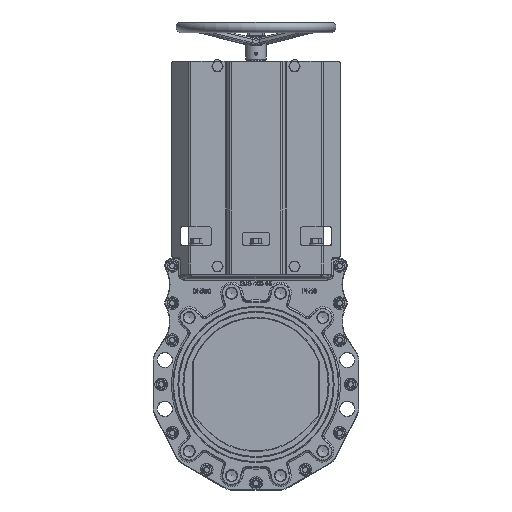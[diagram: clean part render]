
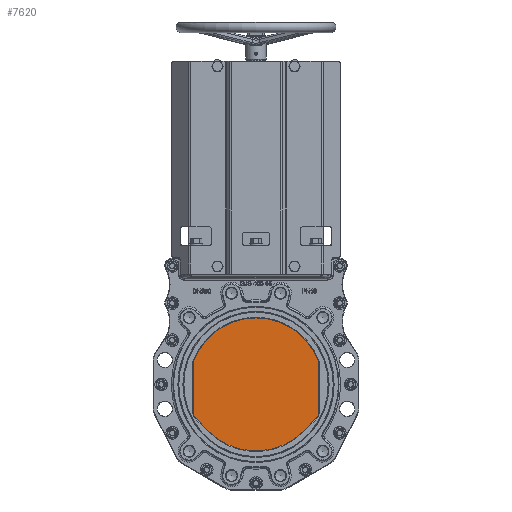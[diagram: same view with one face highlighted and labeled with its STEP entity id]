
A CAD part, top view. The second image highlights one B-rep face of the part: STEP entity #7620.
In plain terms, the highlighted planar face has unit normal (0, 0, 1).
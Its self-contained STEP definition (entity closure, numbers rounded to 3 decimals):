
#5628=PLANE('',#54207);
#7620=ADVANCED_FACE('',(#11492),#5628,.T.);
#11492=FACE_OUTER_BOUND('',#14449,.T.);
#14449=EDGE_LOOP('',(#28850,#28851,#28852,#28853,#28854,#28855,#28856,#28857,
#28858,#28859));
#17993=LINE('',#77340,#21211);
#17997=LINE('',#77352,#21215);
#18001=LINE('',#77364,#21219);
#18005=LINE('',#77376,#21223);
#21211=VECTOR('',#60901,1.);
#21215=VECTOR('',#60913,1.);
#21219=VECTOR('',#60925,1.);
#21223=VECTOR('',#60937,1.);
#28850=ORIENTED_EDGE('',*,*,#45213,.F.);
#28851=ORIENTED_EDGE('',*,*,#45238,.F.);
#28852=ORIENTED_EDGE('',*,*,#45236,.F.);
#28853=ORIENTED_EDGE('',*,*,#45233,.F.);
#28854=ORIENTED_EDGE('',*,*,#45230,.F.);
#28855=ORIENTED_EDGE('',*,*,#45227,.F.);
#28856=ORIENTED_EDGE('',*,*,#45224,.F.);
#28857=ORIENTED_EDGE('',*,*,#45221,.F.);
#28858=ORIENTED_EDGE('',*,*,#45218,.F.);
#28859=ORIENTED_EDGE('',*,*,#45215,.F.);
#39834=VERTEX_POINT('',#77335);
#39835=VERTEX_POINT('',#77337);
#39836=VERTEX_POINT('',#77341);
#39838=VERTEX_POINT('',#77347);
#39840=VERTEX_POINT('',#77353);
#39842=VERTEX_POINT('',#77359);
#39844=VERTEX_POINT('',#77365);
#39846=VERTEX_POINT('',#77371);
#39848=VERTEX_POINT('',#77377);
#39849=VERTEX_POINT('',#77382);
#45213=EDGE_CURVE('',#39834,#39835,#51243,.T.);
#45215=EDGE_CURVE('',#39835,#39836,#17993,.T.);
#45218=EDGE_CURVE('',#39836,#39838,#51244,.T.);
#45221=EDGE_CURVE('',#39838,#39840,#17997,.T.);
#45224=EDGE_CURVE('',#39840,#39842,#51246,.T.);
#45227=EDGE_CURVE('',#39842,#39844,#18001,.T.);
#45230=EDGE_CURVE('',#39844,#39846,#51248,.T.);
#45233=EDGE_CURVE('',#39846,#39848,#18005,.T.);
#45236=EDGE_CURVE('',#39848,#39849,#51250,.T.);
#45238=EDGE_CURVE('',#39849,#39834,#51251,.T.);
#51243=CIRCLE('',#53935,10.);
#51244=CIRCLE('',#53938,10.);
#51246=CIRCLE('',#53942,125.);
#51248=CIRCLE('',#53946,10.);
#51250=CIRCLE('',#53950,10.);
#51251=CIRCLE('',#53952,125.);
#53935=AXIS2_PLACEMENT_3D('',#77336,#60896,#60897);
#53938=AXIS2_PLACEMENT_3D('',#77346,#60906,#60907);
#53942=AXIS2_PLACEMENT_3D('',#77358,#60918,#60919);
#53946=AXIS2_PLACEMENT_3D('',#77370,#60930,#60931);
#53950=AXIS2_PLACEMENT_3D('',#77381,#60942,#60943);
#53952=AXIS2_PLACEMENT_3D('',#77385,#60947,#60948);
#54207=AXIS2_PLACEMENT_3D('',#80309,#61827,#61828);
#60896=DIRECTION('',(0.,0.,-1.));
#60897=DIRECTION('',(1.,0.,0.));
#60901=DIRECTION('',(0.,-1.,0.));
#60906=DIRECTION('',(0.,0.,-1.));
#60907=DIRECTION('',(1.,0.,0.));
#60913=DIRECTION('',(-0.707,-0.707,0.));
#60918=DIRECTION('',(0.,0.,-1.));
#60919=DIRECTION('',(1.,0.,0.));
#60925=DIRECTION('',(-0.707,0.707,0.));
#60930=DIRECTION('',(0.,0.,-1.));
#60931=DIRECTION('',(1.,0.,0.));
#60937=DIRECTION('',(0.,1.,0.));
#60942=DIRECTION('',(0.,0.,-1.));
#60943=DIRECTION('',(1.,0.,0.));
#60947=DIRECTION('',(0.,0.,-1.));
#60948=DIRECTION('',(1.,0.,0.));
#61827=DIRECTION('',(0.,0.,1.));
#61828=DIRECTION('',(1.,0.,0.));
#77335=CARTESIAN_POINT('',(116.848,44.403,5.));
#77336=CARTESIAN_POINT('',(107.5,40.85,5.));
#77337=CARTESIAN_POINT('',(117.5,40.85,5.));
#77340=CARTESIAN_POINT('',(117.5,-59.277,5.));
#77341=CARTESIAN_POINT('',(117.5,-55.135,5.));
#77346=CARTESIAN_POINT('',(107.5,-55.135,5.));
#77347=CARTESIAN_POINT('',(114.571,-62.206,5.));
#77352=CARTESIAN_POINT('',(88.388,-88.388,5.));
#77353=CARTESIAN_POINT('',(88.388,-88.388,5.));
#77358=CARTESIAN_POINT('',(0.,0.,5.));
#77359=CARTESIAN_POINT('',(-88.388,-88.388,5.));
#77364=CARTESIAN_POINT('',(-117.5,-59.277,5.));
#77365=CARTESIAN_POINT('',(-114.571,-62.206,5.));
#77370=CARTESIAN_POINT('',(-107.5,-55.135,5.));
#77371=CARTESIAN_POINT('',(-117.5,-55.135,5.));
#77376=CARTESIAN_POINT('',(-117.5,42.647,5.));
#77377=CARTESIAN_POINT('',(-117.5,40.85,5.));
#77381=CARTESIAN_POINT('',(-107.5,40.85,5.));
#77382=CARTESIAN_POINT('',(-116.848,44.403,5.));
#77385=CARTESIAN_POINT('',(0.,0.,5.));
#80309=CARTESIAN_POINT('',(0.,118.483,5.));
